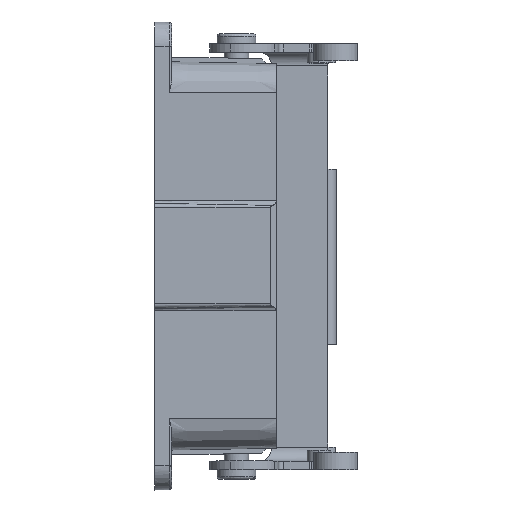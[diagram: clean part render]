
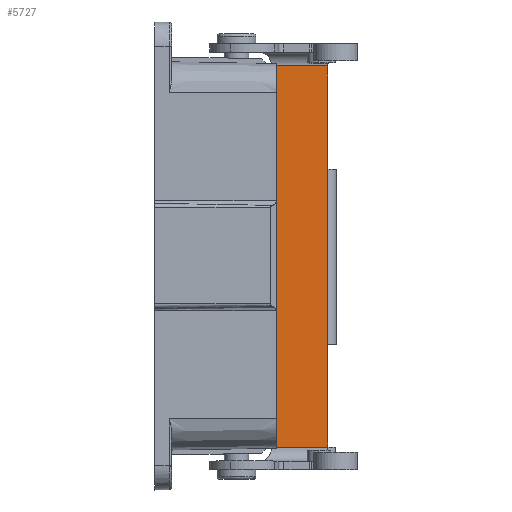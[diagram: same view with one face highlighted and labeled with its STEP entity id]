
A CAD part, top view. The second image highlights one B-rep face of the part: STEP entity #5727.
In plain terms, the highlighted planar face has unit normal (-0.006, 0, 1).
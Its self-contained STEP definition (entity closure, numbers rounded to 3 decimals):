
#986=DIRECTION('',(-1.,0.,-0.006));
#987=VECTOR('',#986,11.548);
#988=CARTESIAN_POINT('',(8.849,-39.33,-16.268));
#989=LINE('',#988,#987);
#1393=CARTESIAN_POINT('',(8.849,-39.33,
-16.268));
#1407=DIRECTION('',(0.,-1.,0.));
#1408=VECTOR('',#1407,0.11);
#1409=CARTESIAN_POINT('',(8.849,-39.22,
-16.268));
#1410=LINE('',#1409,#1408);
#1430=DIRECTION('',(0.,-1.,0.));
#1431=VECTOR('',#1430,78.4);
#1432=CARTESIAN_POINT('',(-2.698,39.07,
-16.346));
#1433=LINE('',#1432,#1431);
#1434=DIRECTION('',(0.,1.,0.));
#1435=VECTOR('',#1434,21.2);
#1436=CARTESIAN_POINT('',(8.849,17.87,-16.271));
#1437=LINE('',#1436,#1435);
#1438=DIRECTION('',(0.,1.,0.));
#1439=VECTOR('',#1438,21.09);
#1440=CARTESIAN_POINT('',(8.849,-39.22,
-16.268));
#1441=LINE('',#1440,#1439);
#1442=DIRECTION('',(1.,0.,0.006));
#1443=VECTOR('',#1442,11.548);
#1444=CARTESIAN_POINT('',(-2.698,39.07,
-16.346));
#1445=LINE('',#1444,#1443);
#1570=DIRECTION('',(0.,-1.,0.));
#1571=VECTOR('',#1570,36.);
#1572=CARTESIAN_POINT('',(8.849,17.87,-16.271));
#1573=LINE('',#1572,#1571);
#3475=CARTESIAN_POINT('',(8.849,-39.22,
-16.268));
#3477=VERTEX_POINT('',#3475);
#3538=CARTESIAN_POINT('',(8.849,17.87,-16.271));
#3539=CARTESIAN_POINT('',(8.849,-18.13,
-16.269));
#3540=VERTEX_POINT('',#3538);
#3541=VERTEX_POINT('',#3539);
#3637=VERTEX_POINT('',#1393);
#3738=CARTESIAN_POINT('',(-2.698,39.07,
-16.346));
#3739=CARTESIAN_POINT('',(8.849,39.07,-16.272));
#3740=VERTEX_POINT('',#3738);
#3741=VERTEX_POINT('',#3739);
#3955=CARTESIAN_POINT('',(-2.698,-39.33,
-16.342));
#3956=VERTEX_POINT('',#3955);
#5709=CARTESIAN_POINT('',(67.139,-42.13,
-15.892));
#5710=DIRECTION('',(0.006,0.,-1.));
#5711=DIRECTION('',(0.,1.,0.));
#5712=AXIS2_PLACEMENT_3D('',#5709,#5710,#5711);
#5713=PLANE('',#5712);
#5714=ORIENTED_EDGE('',*,*,#5237,.T.);
#5715=ORIENTED_EDGE('',*,*,#5224,.F.);
#5717=ORIENTED_EDGE('',*,*,#5716,.T.);
#5719=ORIENTED_EDGE('',*,*,#5718,.F.);
#5721=ORIENTED_EDGE('',*,*,#5720,.T.);
#5723=ORIENTED_EDGE('',*,*,#5722,.F.);
#5724=ORIENTED_EDGE('',*,*,#5697,.T.);
#5725=EDGE_LOOP('',(#5714,#5715,#5717,#5719,#5721,#5723,#5724));
#5726=FACE_OUTER_BOUND('',#5725,.F.);
#5727=ADVANCED_FACE('',(#5726),#5713,.F.);
#5224=EDGE_CURVE('',#3740,#3956,#1433,.T.);
#5237=EDGE_CURVE('',#3637,#3956,#989,.T.);
#5697=EDGE_CURVE('',#3477,#3637,#1410,.T.);
#5716=EDGE_CURVE('',#3740,#3741,#1445,.T.);
#5718=EDGE_CURVE('',#3540,#3741,#1437,.T.);
#5720=EDGE_CURVE('',#3540,#3541,#1573,.T.);
#5722=EDGE_CURVE('',#3477,#3541,#1441,.T.);
